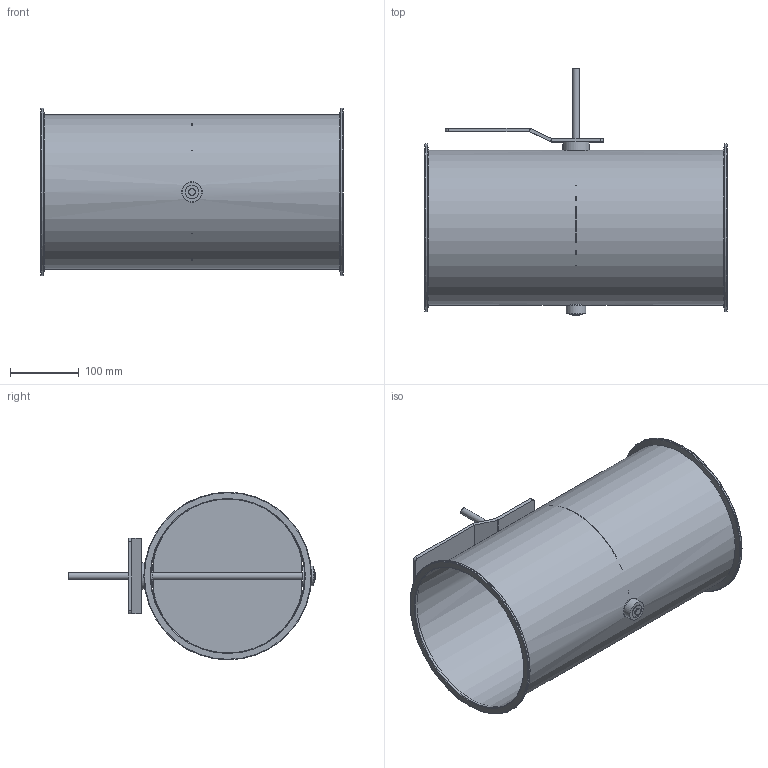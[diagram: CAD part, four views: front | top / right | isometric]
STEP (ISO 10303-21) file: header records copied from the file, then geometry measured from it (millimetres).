
FILE_DESCRIPTION(/* description */ (''),/* implementation_level */ '2;1');
FILE_NAME(/* name */ 'EA102-80B__224_L440_Belimo_Typen_NF_SF.stp',/* time_stamp */ '2017-12-06T14:48:11+01:00',/* author */ (''),/* organization */ (''),/* preprocessor_version */ 'ST-DEVELOPER v11',/* originating_system */ 'SIEMENS UGS NX 6.0',/* authorisation */ '');
FILE_SCHEMA (('CONFIG_CONTROL_DESIGN'));
Length unit declared in the file: millimetre
Products named in the file (1): gars18E2j28w
Bounding box: 440 x 360 x 244 mm (x, y, z)
Volume: 530059.2 mm3; surface area: 802906.2 mm2
Topology: 8 solids, 8 shells, 76 faces, 158 edges, 100 vertices
Faces by surface type: plane 36, cylinder 32, torus 6, cone 2
Full cylindrical faces by diameter (mm): 4.1 x4, 10 x3, 19 x3, 19.85 x2, 20 x2, 29 x1, 30 x2, 39 x1, 224 x1, 225.6 x1, 244 x2
Entity records: 1960 total; most frequent: CARTESIAN_POINT 353, DIRECTION 334, ORIENTED_EDGE 236, AXIS2_PLACEMENT_3D 143, EDGE_LOOP 132, EDGE_CURVE 118, FACE_BOUND 102, VERTEX_POINT 90
